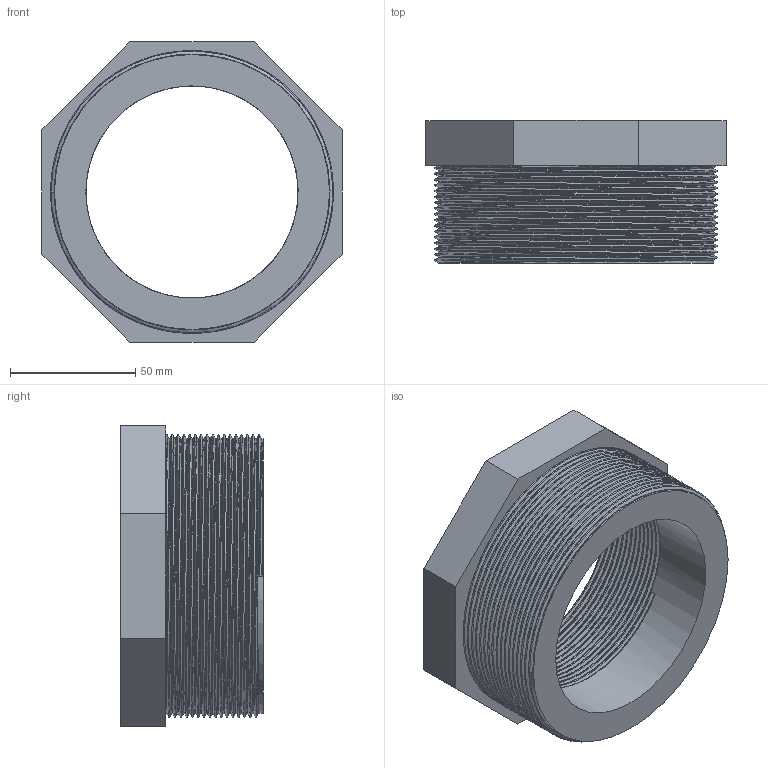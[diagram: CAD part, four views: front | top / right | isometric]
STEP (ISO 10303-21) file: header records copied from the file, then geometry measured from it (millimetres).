
FILE_DESCRIPTION(/* description */ ('PVC riduzione filettata BSP maschio-femmina'),/* implementation_level */ '2;1');
FILE_NAME(/* name */ 'C:\Users\POLYPIPE\Desktop\DATASET INVENTOR\LIBRERIA EFFAST\RACCORDI 3DxWEB\RER\3D_RERRCE\3D_RERRCE110I.stp',/* time_stamp */ '2018-01-19T16:59:03+01:00',/* author */ ('POLYPIPE'),/* organization */ ('Polypipe Italia s.r.l.'),/* preprocessor_version */ 'ST-DEVELOPER v16.1',/* originating_system */ 'Autodesk Inventor 2016',/* authorisation */ '');
FILE_SCHEMA (('CONFIG_CONTROL_DESIGN'));
Length unit declared in the file: millimetre
Products named in the file (1): 3D_RERRCE
Bounding box: 120 x 57 x 120 mm (x, y, z)
Volume: 266145.8 mm3; surface area: 63870.8 mm2
Topology: 1 solids, 1 shells, 25 faces, 62 edges, 40 vertices
Faces by surface type: plane 13, bspline 10, cylinder 2
Full cylindrical faces by diameter (mm): 84.926 x1, 110.072 x1
Entity records: 12542 total; most frequent: CARTESIAN_POINT 11995, ORIENTED_EDGE 120, DIRECTION 78, EDGE_CURVE 60, VERTEX_POINT 39, LINE 30, VECTOR 30, EDGE_LOOP 29
